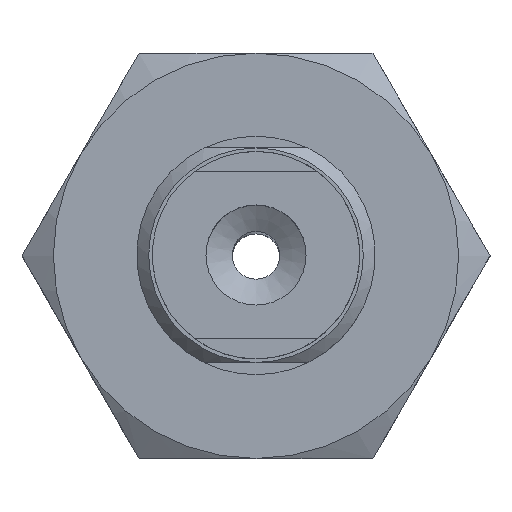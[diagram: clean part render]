
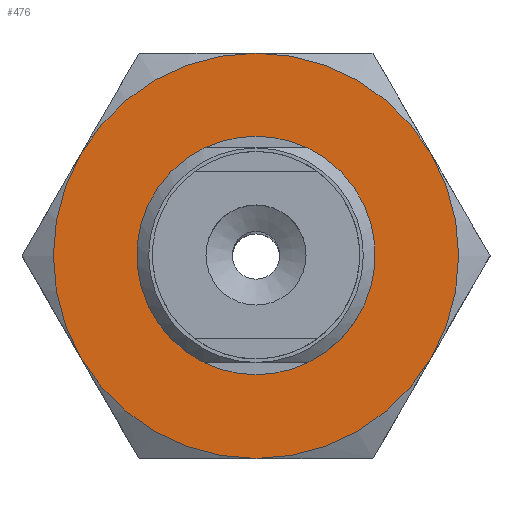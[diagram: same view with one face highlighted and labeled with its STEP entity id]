
A CAD part, top view. The second image highlights one B-rep face of the part: STEP entity #476.
In plain terms, the highlighted planar face has unit normal (0, 0, 1).
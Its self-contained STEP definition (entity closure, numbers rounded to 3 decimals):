
#476=ADVANCED_FACE('',(#631,#632),#633,.T.);
#631=FACE_BOUND('',#913,.T.);
#632=FACE_OUTER_BOUND('',#914,.T.);
#633=PLANE('',#915);
#913=EDGE_LOOP('',(#1355));
#914=EDGE_LOOP('',(#1356,#1357,#1358,#1359,#1360,#1361));
#915=AXIS2_PLACEMENT_3D('',#1362,#1363,#1364);
#1355=ORIENTED_EDGE('',*,*,#1942,.F.);
#1356=ORIENTED_EDGE('',*,*,#1943,.F.);
#1357=ORIENTED_EDGE('',*,*,#1936,.F.);
#1358=ORIENTED_EDGE('',*,*,#1912,.F.);
#1359=ORIENTED_EDGE('',*,*,#1915,.F.);
#1360=ORIENTED_EDGE('',*,*,#1944,.F.);
#1361=ORIENTED_EDGE('',*,*,#1945,.F.);
#1362=CARTESIAN_POINT('',(-9.815,-8.5,4.0));
#1363=DIRECTION('',(0.0,0.0,1.0));
#1364=DIRECTION('',(1.0,0.0,0.0));
#1912=EDGE_CURVE('',#2138,#2139,#2140,.T.);
#1915=EDGE_CURVE('',#2144,#2138,#2145,.T.);
#1936=EDGE_CURVE('',#2139,#2179,#2180,.T.);
#1942=EDGE_CURVE('',#2188,#2188,#2189,.T.);
#1943=EDGE_CURVE('',#2179,#2190,#2191,.T.);
#1944=EDGE_CURVE('',#2192,#2144,#2193,.T.);
#1945=EDGE_CURVE('',#2190,#2192,#2194,.T.);
#2138=VERTEX_POINT('',#2576);
#2139=VERTEX_POINT('',#2577);
#2140=CIRCLE('',#2578,8.5);
#2144=VERTEX_POINT('',#2590);
#2145=CIRCLE('',#2591,8.5);
#2179=VERTEX_POINT('',#2671);
#2180=CIRCLE('',#2672,8.5);
#2188=VERTEX_POINT('',#2697);
#2189=CIRCLE('',#2698,4.5);
#2190=VERTEX_POINT('',#2699);
#2191=CIRCLE('',#2700,8.5);
#2192=VERTEX_POINT('',#2701);
#2193=CIRCLE('',#2702,8.5);
#2194=CIRCLE('',#2703,8.5);
#2576=CARTESIAN_POINT('',(7.361,4.25,4.0));
#2577=CARTESIAN_POINT('',(7.361,-4.25,4.0));
#2578=AXIS2_PLACEMENT_3D('',#3076,#3077,#3078);
#2590=CARTESIAN_POINT('',(0.,8.5,4.0));
#2591=AXIS2_PLACEMENT_3D('',#3079,#3080,#3081);
#2671=CARTESIAN_POINT('',(0.,-8.5,4.0));
#2672=AXIS2_PLACEMENT_3D('',#3105,#3106,#3107);
#2697=CARTESIAN_POINT('',(0.0,-4.5,4.0));
#2698=AXIS2_PLACEMENT_3D('',#3109,#3110,#3111);
#2699=CARTESIAN_POINT('',(-7.361,-4.25,4.0));
#2700=AXIS2_PLACEMENT_3D('',#3112,#3113,#3114);
#2701=CARTESIAN_POINT('',(-7.361,4.25,4.0));
#2702=AXIS2_PLACEMENT_3D('',#3115,#3116,#3117);
#2703=AXIS2_PLACEMENT_3D('',#3118,#3119,#3120);
#3076=CARTESIAN_POINT('',(0.,0.,4.0));
#3077=DIRECTION('',(0.,0.,-1.0));
#3078=DIRECTION('',(0.866,0.5,0.));
#3079=CARTESIAN_POINT('',(0.,0.,4.0));
#3080=DIRECTION('',(0.,0.,-1.0));
#3081=DIRECTION('',(0.866,0.5,0.));
#3105=CARTESIAN_POINT('',(0.,0.,4.0));
#3106=DIRECTION('',(0.,0.,-1.0));
#3107=DIRECTION('',(0.866,0.5,0.));
#3109=CARTESIAN_POINT('',(0.0,0.0,4.0));
#3110=DIRECTION('',(0.0,0.,1.0));
#3111=DIRECTION('',(0.0,-1.0,0.));
#3112=CARTESIAN_POINT('',(0.,0.,4.0));
#3113=DIRECTION('',(0.,0.,-1.0));
#3114=DIRECTION('',(0.866,0.5,0.));
#3115=CARTESIAN_POINT('',(0.,0.,4.0));
#3116=DIRECTION('',(0.,0.,-1.0));
#3117=DIRECTION('',(0.866,0.5,0.));
#3118=CARTESIAN_POINT('',(0.,0.,4.0));
#3119=DIRECTION('',(0.,0.,-1.0));
#3120=DIRECTION('',(0.866,0.5,0.));
